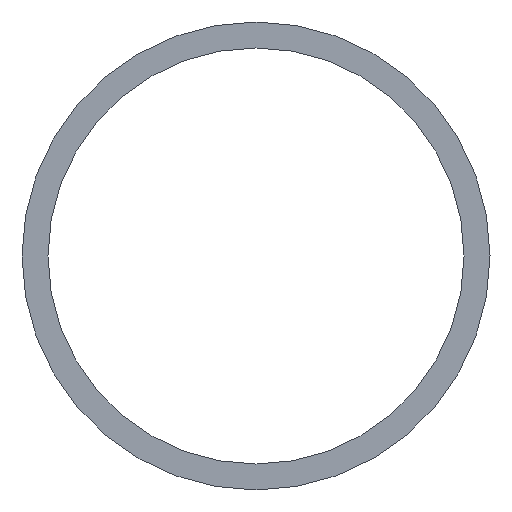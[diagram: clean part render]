
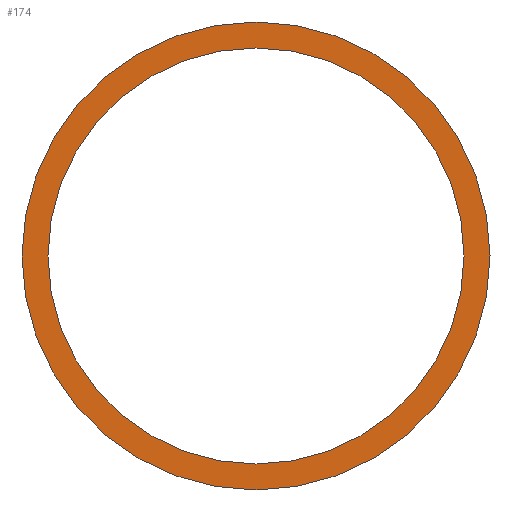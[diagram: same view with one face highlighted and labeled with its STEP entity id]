
A CAD part, left-side view. The second image highlights one B-rep face of the part: STEP entity #174.
In plain terms, the highlighted planar face has unit normal (-1, 0, 0).
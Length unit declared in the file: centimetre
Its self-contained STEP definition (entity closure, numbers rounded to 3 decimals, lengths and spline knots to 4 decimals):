
#38 = VERTEX_POINT ( 'NONE', #291 ) ;
#42 = EDGE_CURVE ( 'NONE', #43, #44, #288, .T. ) ;
#43 = VERTEX_POINT ( 'NONE', #279 ) ;
#44 = VERTEX_POINT ( 'NONE', #278 ) ;
#84 = EDGE_CURVE ( 'NONE', #38, #85, #393, .T. ) ;
#85 = VERTEX_POINT ( 'NONE', #388 ) ;
#97 = ORIENTED_EDGE ( 'NONE', *, *, #84, .T. ) ;
#168 = ORIENTED_EDGE ( 'NONE', *, *, #42, .F. ) ;
#169 = ORIENTED_EDGE ( 'NONE', *, *, #170, .F. ) ;
#170 = EDGE_CURVE ( 'NONE', #44, #43, #514, .T. ) ;
#171 = EDGE_LOOP ( 'NONE', ( #172, #97 ) ) ;
#172 = ORIENTED_EDGE ( 'NONE', *, *, #180, .T. ) ;
#174 = ADVANCED_FACE ( 'NONE', ( #515, #509 ), #508, .T. ) ;
#175 = EDGE_LOOP ( 'NONE', ( #168, #169 ) ) ;
#180 = EDGE_CURVE ( 'NONE', #85, #38, #503, .T. ) ;
#278 = CARTESIAN_POINT ( 'NONE',  ( -4.6436, 0., 1.6 ) ) ;
#279 = CARTESIAN_POINT ( 'NONE',  ( -4.6436, 0., -1.6 ) ) ;
#280 = DIRECTION ( 'NONE',  ( 0., 0., -1. ) ) ;
#281 = DIRECTION ( 'NONE',  ( -1., 0., 0. ) ) ;
#282 = CARTESIAN_POINT ( 'NONE',  ( -4.6436, 0., 0. ) ) ;
#283 = AXIS2_PLACEMENT_3D ( 'NONE', #282, #281, #280 ) ;
#288 = CIRCLE ( 'NONE', #283, 1.6 ) ;
#291 = CARTESIAN_POINT ( 'NONE',  ( -4.6436, 0., 1.8 ) ) ;
#388 = CARTESIAN_POINT ( 'NONE',  ( -4.6436, 0., -1.8 ) ) ;
#389 = DIRECTION ( 'NONE',  ( 0., 0., -1. ) ) ;
#390 = DIRECTION ( 'NONE',  ( -1., 0., 0. ) ) ;
#391 = CARTESIAN_POINT ( 'NONE',  ( -4.6436, 0., 0. ) ) ;
#392 = AXIS2_PLACEMENT_3D ( 'NONE', #391, #390, #389 ) ;
#393 = CIRCLE ( 'NONE', #392, 1.8 ) ;
#499 = DIRECTION ( 'NONE',  ( 0., 0., -1. ) ) ;
#500 = DIRECTION ( 'NONE',  ( -1., 0., 0. ) ) ;
#501 = CARTESIAN_POINT ( 'NONE',  ( -4.6436, 0., 0. ) ) ;
#502 = AXIS2_PLACEMENT_3D ( 'NONE', #501, #500, #499 ) ;
#503 = CIRCLE ( 'NONE', #502, 1.8 ) ;
#504 = DIRECTION ( 'NONE',  ( 0., 0., 1. ) ) ;
#505 = DIRECTION ( 'NONE',  ( -1., 0., 0. ) ) ;
#506 = CARTESIAN_POINT ( 'NONE',  ( -4.6436, 1.7, 0. ) ) ;
#507 = AXIS2_PLACEMENT_3D ( 'NONE', #506, #505, #504 ) ;
#508 = PLANE ( 'NONE',  #507 ) ;
#509 = FACE_OUTER_BOUND ( 'NONE', #171, .T. ) ;
#510 = DIRECTION ( 'NONE',  ( 0., 0., -1. ) ) ;
#511 = DIRECTION ( 'NONE',  ( -1., 0., 0. ) ) ;
#512 = CARTESIAN_POINT ( 'NONE',  ( -4.6436, 0., 0. ) ) ;
#513 = AXIS2_PLACEMENT_3D ( 'NONE', #512, #511, #510 ) ;
#514 = CIRCLE ( 'NONE', #513, 1.6 ) ;
#515 = FACE_BOUND ( 'NONE', #175, .T. ) ;
